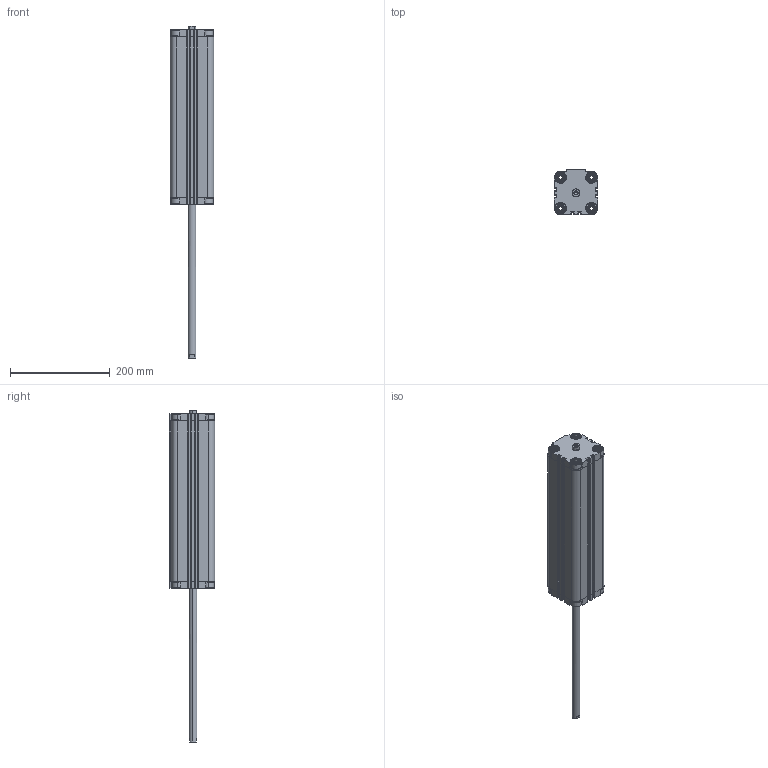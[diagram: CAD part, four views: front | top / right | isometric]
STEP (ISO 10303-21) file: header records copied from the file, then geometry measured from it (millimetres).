
FILE_DESCRIPTION (( 'STEP AP203' ), '1' );
FILE_NAME ('CDVU63-300F-P.STEP', '2020-07-24T18:39:57', ( '' ), ( '' ), 'SwSTEP 2.0', 'SolidWorks 2019', '' );
FILE_SCHEMA (( 'CONFIG_CONTROL_DESIGN' ));
Length unit declared in the file: millimetre
Products named in the file (1): CDVU63-300F-P
Bounding box: 87 x 91 x 665 mm (x, y, z)
Volume: 1519189.1 mm3; surface area: 340796.6 mm2
Topology: 2 solids, 2 shells, 622 faces, 1668 edges, 1092 vertices
Faces by surface type: plane 370, cylinder 188, cone 64
Entity records: 19635 total; most frequent: CARTESIAN_POINT 3951, ORIENTED_EDGE 3320, DIRECTION 3170, EDGE_CURVE 1660, VERTEX_POINT 1092, AXIS2_PLACEMENT_3D 1079, VECTOR 1012, LINE 1012
